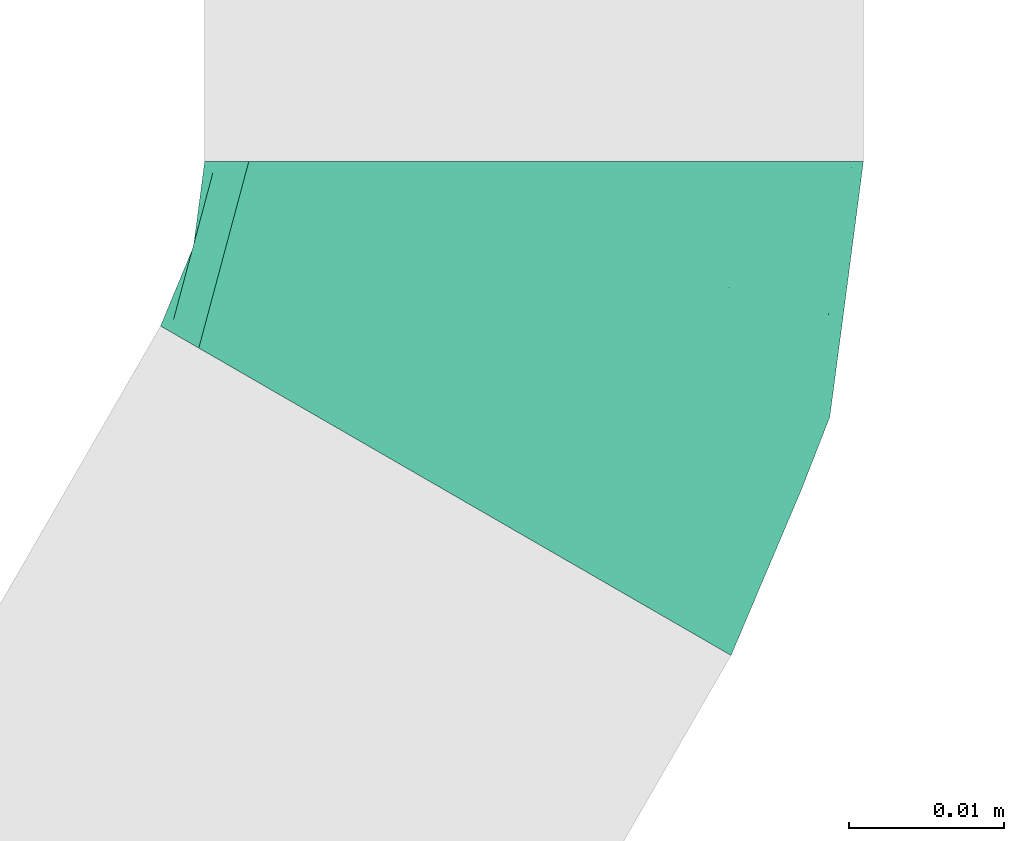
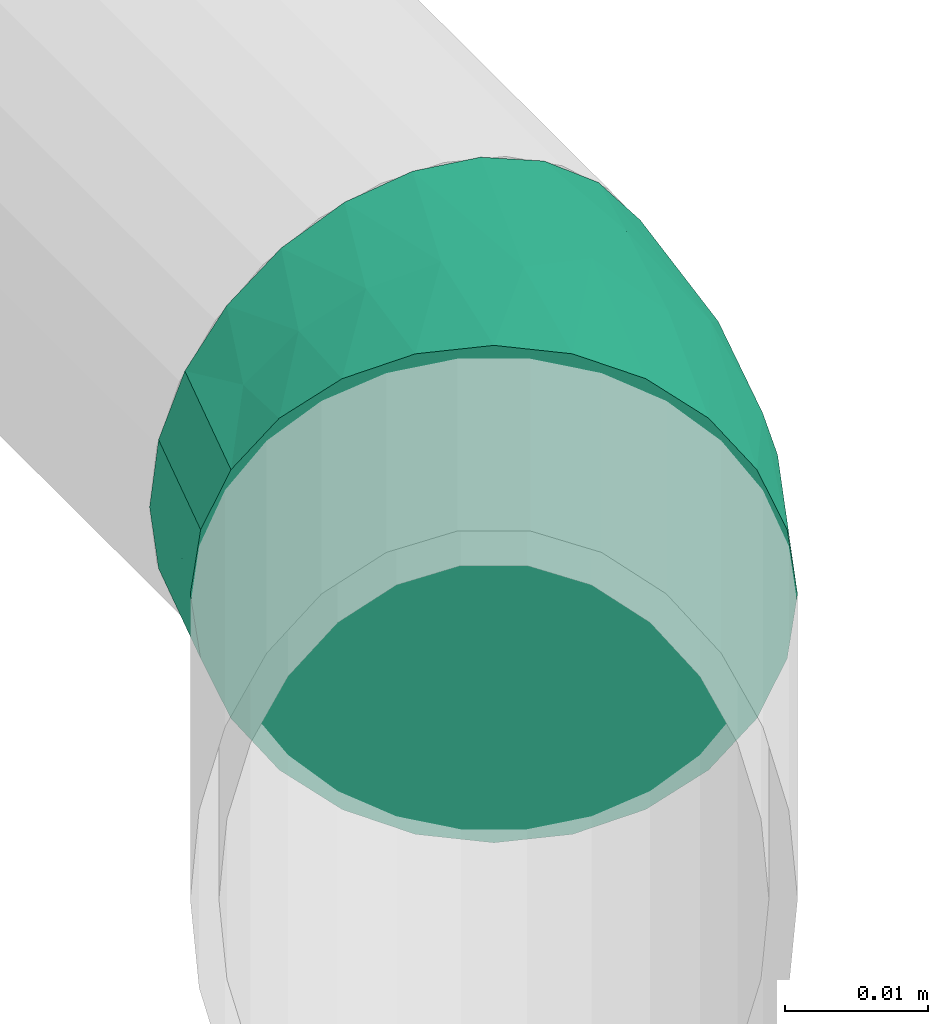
# One storey, part 43 of 43: 1 flow fitting.
"""IFC2X3 building model written with IfcOpenShell, lengths in millimetres."""

from ifc_helpers import new_model, entity, si_unit, converted_unit, derived_unit, direction, frame, origin_with_axes, place, context, subcontext, project, spatial, open_shell, surface_model, source, transform, mapped, type_object, element, save


model = new_model("IFC2X3")

# Units and contexts
model_context = context("Model", 3, precision=0.01, world=frame((0.0, 4.29681676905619e-09, 0.0)), true_north=direction((4.01073788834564e-13, 1.0)))
plan_context = context("Plan", 3, precision=0.01, world=frame((0.0, 4.29681676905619e-09, 0.0)), true_north=direction((4.01073788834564e-13, 1.0)))
body_context = subcontext(model_context, "Body", "Model", "MODEL_VIEW")
ifc_project = project(units=[converted_unit("PLANEANGLEUNIT", "DEGREE", entity("IfcPositiveLengthMeasure", 0.0174532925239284), si_unit("PLANEANGLEUNIT", "RADIAN"), dimensions=[0, 0, 0, 0, 0, 0, 0]), si_unit("AREAUNIT", "SQUARE_METRE"), si_unit("LENGTHUNIT", "METRE", prefix="MILLI"), si_unit("MASSUNIT", "GRAM", prefix="KILO"), si_unit("POWERUNIT", "WATT"), si_unit("PRESSUREUNIT", "PASCAL"), si_unit("FORCEUNIT", "NEWTON", prefix="KILO"), si_unit("ELECTRICVOLTAGEUNIT", "VOLT"), si_unit("ELECTRICCURRENTUNIT", "AMPERE"), si_unit("THERMODYNAMICTEMPERATUREUNIT", "DEGREE_CELSIUS"), si_unit("TIMEUNIT", "SECOND"), si_unit("VOLUMEUNIT", "CUBIC_METRE"), derived_unit("LINEARVELOCITYUNIT", [(si_unit("LENGTHUNIT", "METRE"), 1), (si_unit("TIMEUNIT", "SECOND"), -1)]), derived_unit("VOLUMETRICFLOWRATEUNIT", [(si_unit("VOLUMEUNIT", "CUBIC_METRE"), 1), (si_unit("TIMEUNIT", "SECOND"), -1)]), derived_unit("THERMALTRANSMITTANCEUNIT", [(si_unit("POWERUNIT", "WATT"), 1), (si_unit("THERMODYNAMICTEMPERATUREUNIT", "KELVIN"), -1), (si_unit("AREAUNIT", "SQUARE_METRE"), -1)]), derived_unit("SOUNDPRESSUREUNIT", [(si_unit("PRESSUREUNIT", "PASCAL"), 1)])], contexts=[model_context, plan_context])

# Site, building, storey
site_placement = place(None, frame((0.0, -4.29681676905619e-09, 0.0), z_axis=(0.0, 0.0, 1.0), x_axis=(1.0, 0.0, 0.0)))
site = spatial("IfcSite", under=ifc_project, at=site_placement, CompositionType="ELEMENT")
building_placement = place(site_placement, frame((0.0, 4.29681676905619e-09, 0.0), z_axis=(0.0, 0.0, 1.0), x_axis=(1.0, 0.0, 0.0)))
building = spatial("IfcBuilding", under=site, at=building_placement, Name="mc-building", CompositionType="ELEMENT")
storey_placement = place(building_placement, frame((0.0, 0.0, 210900.0), z_axis=(0.0, 0.0, 1.0), x_axis=(1.0, 0.0, 0.0)))
storey = spatial("IfcBuildingStorey", under=building, at=storey_placement, Name="Nivå F", CompositionType="ELEMENT", Elevation=210900.0)

# Flow fitting
pipe_fitting_type = type_object("IfcPipeFittingType", Name="magi_pipe_fe_elbow_short_001", PredefinedType="BEND")
shared_shape = source(origin_with_axes(), body_context, "Body", "SurfaceModel", [
    surface_model("IfcShellBasedSurfaceModel", [(-11.36105, 10.6, -18.35974), (-11.36105, 5.48696, -20.47763), (-11.36105, 0.0, -21.2), (-11.36105, 14.99066, -14.99066), (-11.36105, 20.47763, -5.48696), (-11.36105, 18.35974, -10.6), (-11.36105, -14.99066, 14.99066), (-11.36105, -21.2, 0.0), (-11.36105, -10.6, -18.35974), (-11.36105, -14.99066, -14.99066), (-11.36105, -5.48696, -20.47763), (-11.36105, -20.47763, -5.48696), (-11.36105, -18.35974, -10.6), (-11.36105, 10.6, 18.35974), (-11.36105, 20.47763, 5.48696), (-11.36105, 18.35974, 10.6), (-11.36105, 14.99066, 14.99066), (-11.36105, 0.0, 21.2), (-11.36105, 5.48696, 20.47763), (-11.36105, -20.47763, 5.48696), (-11.36105, -18.35974, 10.6), (-11.36105, -10.6, 18.35974), (-11.36105, -5.48696, 20.47763), (-11.36105, 21.2, 0.0), (9.83895, 5.68052, -21.2), (7.09547, 10.43237, -20.47763), (4.53895, 14.86039, -18.35974), (2.34362, 18.66282, -14.99066), (0.65908, 21.58052, -10.6), (-0.39986, 23.41467, -5.48696), (12.58244, 0.92867, -20.47763), (20.07777, -12.05362, 5.48696), (17.33429, -7.30177, -14.99066), (15.13895, -3.49935, -18.35974), (19.01882, -10.21948, -10.6), (20.43896, -12.67922, 0.0), (20.07777, -12.05362, -5.48696), (2.34362, 18.66282, 14.99066), (-0.76105, 24.04026, 0.0), (-0.39986, 23.41467, 5.48696), (0.65908, 21.58052, 10.6), (4.53895, 14.86039, 18.35974), (17.33429, -7.30177, 14.99066), (7.09547, 10.43237, 20.47763), (19.01882, -10.21948, 10.6), (12.58244, 0.92867, 20.47763), (15.13895, -3.49935, 18.35974), (9.83895, 5.68052, 21.2), (4.05837, -15.14604, 12.42672), (-0.61203, -12.18365, 16.56366), (1.83643, -6.85364, 19.38125), (-1.46076, -2.07725, 20.96229), (-0.3181, -18.75887, 7.7112), (0.05196, -19.79918, 3.90308), (8.00813, -17.79103, 3.93963), (-0.98942, 3.69258, 21.07189), (-4.68808, 17.49616, 13.1641), (-3.65169, 13.6283, 17.03947), (9.06562, -9.26089, 16.62673), (-2.3452, 8.93262, 19.73677), (-5.87408, 21.92237, 0.0), (5.09985, -19.03288, 0.0), (10.67377, -16.72409, 0.0), (-0.88172, -19.82037, 0.0), (10.75581, -15.66121, 7.75424), (0.45251, -1.68878, -20.95032), (-1.81445, 3.51757, -21.06792), (4.56499, -5.9314, -19.42673), (-4.68808, 17.49616, -13.1641), (3.8432, -17.92118, -7.5558), (-3.73548, -19.70704, -6.51711), (-2.2425, -16.32645, -12.62591), (-3.65169, 13.6283, -17.03947), (12.08939, -14.72996, -8.64872), (11.02739, -16.5851, -4.6173), (8.35295, -13.7108, -12.56763), (-2.43355, -9.65158, -18.46722), (3.06672, -11.44514, -16.47307), (-2.4788, 8.89884, -19.73605), (1.97241, -19.44111, -3.76951)], [open_shell([[[0, 1, 2]], [[3, 0, 2]], [[4, 5, 3]], [[2, 4, 3]], [[6, 2, 7]], [[8, 9, 10]], [[9, 2, 10]], [[11, 7, 12]], [[12, 2, 9]], [[12, 7, 2]], [[6, 4, 2]], [[13, 14, 4]], [[15, 14, 16]], [[13, 4, 6]], [[16, 14, 13]], [[13, 17, 18]], [[19, 20, 7]], [[7, 20, 6]], [[21, 22, 6]], [[17, 6, 22]], [[6, 17, 13]], [[23, 4, 14]], [[24, 25, 26]], [[24, 26, 27]], [[27, 28, 29]], [[24, 27, 30]], [[31, 30, 27]], [[30, 32, 33]], [[32, 30, 34]], [[34, 35, 36]], [[35, 34, 30]], [[35, 30, 31]], [[31, 27, 29]], [[37, 38, 39]], [[37, 39, 40]], [[38, 41, 31]], [[41, 38, 37]], [[42, 41, 43]], [[31, 42, 44]], [[31, 41, 42]], [[42, 45, 46]], [[45, 42, 47]], [[43, 47, 42]], [[38, 31, 29]], [[20, 48, 6]], [[49, 50, 21]], [[21, 6, 49]], [[44, 42, 48]], [[17, 22, 51]], [[22, 21, 50]], [[52, 53, 54]], [[51, 55, 17]], [[17, 55, 18]], [[47, 43, 55]], [[48, 20, 52]], [[46, 45, 50]], [[16, 56, 15]], [[57, 16, 13]], [[58, 48, 42]], [[6, 48, 49]], [[18, 59, 13]], [[60, 14, 39]], [[20, 19, 52]], [[60, 23, 14]], [[39, 14, 15]], [[22, 50, 51]], [[18, 55, 59]], [[57, 59, 41]], [[53, 61, 54]], [[62, 54, 61]], [[51, 47, 55]], [[46, 58, 42]], [[7, 63, 53]], [[51, 45, 47]], [[48, 58, 49]], [[52, 64, 48]], [[37, 40, 56]], [[49, 58, 50]], [[50, 58, 46]], [[35, 31, 62]], [[19, 53, 52]], [[57, 56, 16]], [[40, 39, 15]], [[38, 60, 39]], [[54, 31, 64]], [[48, 64, 44]], [[31, 54, 62]], [[43, 59, 55]], [[41, 37, 57]], [[37, 56, 57]], [[7, 53, 19]], [[15, 56, 40]], [[43, 41, 59]], [[59, 57, 13]], [[52, 54, 64]], [[44, 64, 31]], [[61, 53, 63]], [[45, 51, 50]], [[2, 65, 10]], [[24, 66, 25]], [[30, 33, 67]], [[65, 2, 66]], [[68, 3, 5]], [[69, 70, 71]], [[3, 68, 72]], [[73, 36, 74]], [[29, 5, 4]], [[32, 34, 75]], [[76, 67, 77]], [[1, 78, 66]], [[79, 70, 69]], [[12, 70, 11]], [[79, 11, 70]], [[71, 70, 12]], [[9, 8, 76]], [[25, 78, 26]], [[11, 79, 63]], [[12, 9, 71]], [[67, 76, 10]], [[78, 72, 26]], [[72, 68, 27]], [[77, 71, 9]], [[4, 23, 60]], [[35, 74, 36]], [[60, 38, 29]], [[28, 68, 5]], [[73, 75, 34]], [[29, 28, 5]], [[68, 28, 27]], [[71, 77, 75]], [[25, 66, 78]], [[10, 65, 67]], [[2, 1, 66]], [[3, 72, 0]], [[78, 1, 0]], [[65, 66, 24]], [[30, 67, 65]], [[33, 77, 67]], [[72, 78, 0]], [[77, 33, 32]], [[74, 79, 69]], [[69, 71, 75]], [[79, 74, 61]], [[63, 7, 11]], [[35, 62, 74]], [[32, 75, 77]], [[27, 26, 72]], [[30, 65, 24]], [[74, 62, 61]], [[4, 60, 29]], [[73, 74, 69]], [[63, 79, 61]], [[75, 73, 69]], [[36, 73, 34]], [[9, 76, 77]], [[10, 76, 8]]])]),
])
flow_fitting_placement = place(storey_placement, frame((605568.59161, 696780.96494, 2270.0), z_axis=(0.0, 0.0, 1.0), x_axis=(0.500000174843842, 0.866025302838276, 0.0)))
element("IfcFlowFitting", 1, at=flow_fitting_placement, inside=storey, type_object=pipe_fitting_type, Name="magi_pipe_fe_elbow_short_001", context=body_context, shape_type="MappedRepresentation", body=[
    mapped(shared_shape, transform((0.0, 0.0, 0.0), scale=1.0)),
])

save(model, "model.ifc")
